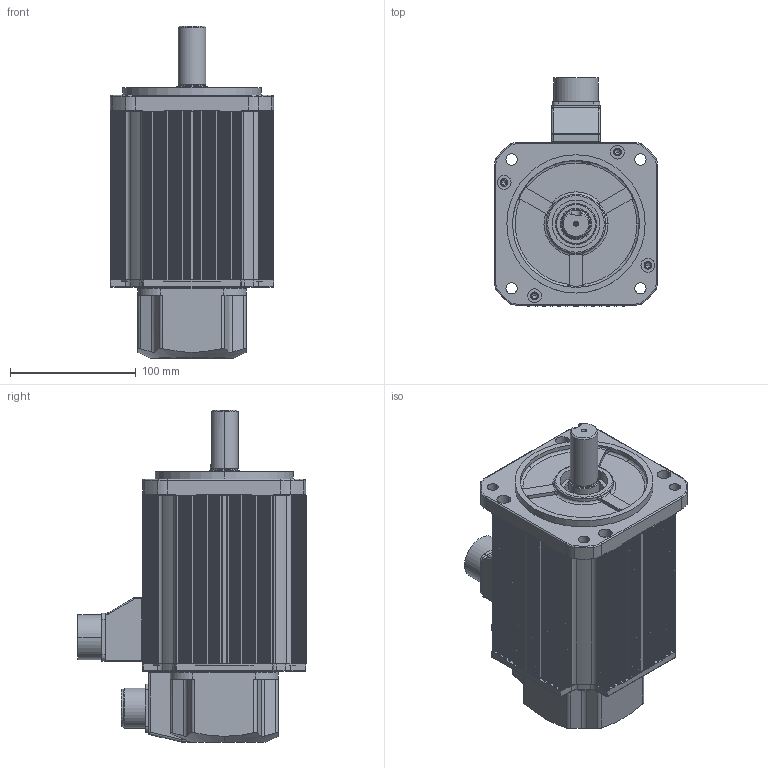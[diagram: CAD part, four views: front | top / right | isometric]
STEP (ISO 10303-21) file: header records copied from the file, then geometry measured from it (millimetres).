
FILE_DESCRIPTION (( 'STEP AP214' ), '1' );
FILE_NAME ('KAND-15B¡à1B2.STEP', '2026-09-12T01:39:51', ( '' ), ( '' ), 'SwSTEP 2.0', 'SolidWorks 2023', '' );
FILE_SCHEMA (( 'AUTOMOTIVE_DESIGN' ));
Length unit declared in the file: millimetre
Products named in the file (11): □130 FLANGE; 1005052200 ENCODER COVER; 10050579 CONNECTOR BOX_MS20; MS3102A 20_표준; 10050523 GASKET_돌출형; 10050511 RUBBER SEAL_MS20; MS3102A 20-29P; □130-134mm; KAND-15B□1B2; □130 BRACKET_BR; Ø22-KEY8X41
Assembly tree (10 placements, depth 2):
  KAND-15B□1B2
    □130-134mm
    □130 FLANGE
    □130 BRACKET_BR
    1005052200 ENCODER COVER
    10050523 GASKET_돌출형
    10050579 CONNECTOR BOX_MS20
    10050511 RUBBER SEAL_MS20
    MS3102A 20-29P
    MS3102A 20_표준
    Ø22-KEY8X41
Bounding box: 130 x 181.75 x 264.2 mm (x, y, z)
Volume: 686596.3 mm3; surface area: 368823.1 mm2
Topology: 10 solids, 10 shells, 2467 faces, 6843 edges, 4423 vertices
Faces by surface type: plane 1163, cylinder 970, torus 185, bspline 83, cone 56, sphere 10
Entity records: 82901 total; most frequent: CARTESIAN_POINT 18568, ORIENTED_EDGE 13558, DIRECTION 13550, EDGE_CURVE 6779, AXIS2_PLACEMENT_3D 4761, VERTEX_POINT 4423, LINE 4028, VECTOR 4028
